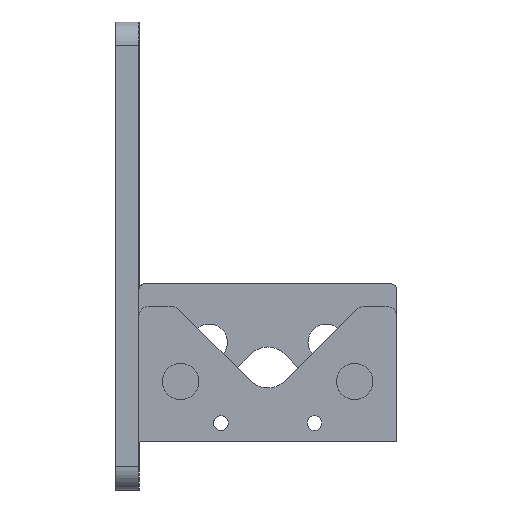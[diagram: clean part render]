
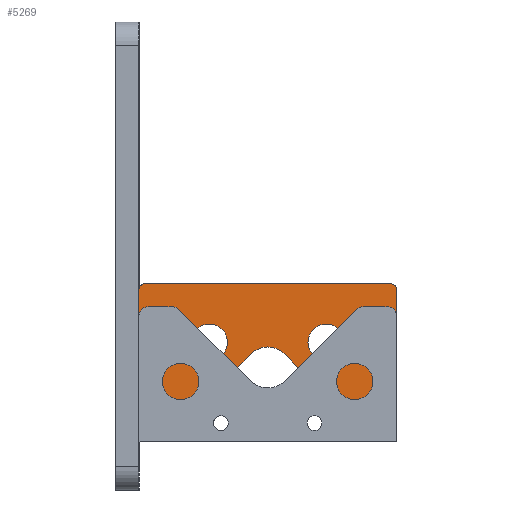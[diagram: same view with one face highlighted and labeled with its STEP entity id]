
A CAD part, left-side view. The second image highlights one B-rep face of the part: STEP entity #5269.
In plain terms, the highlighted planar face has unit normal (-1, 0, 0) as drawn and (0, 0, 1) by its records, which use the part's own axes.
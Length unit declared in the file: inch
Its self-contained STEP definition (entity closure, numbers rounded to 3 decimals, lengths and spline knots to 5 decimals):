
#51 = CARTESIAN_POINT ( 'NONE',  ( 0.7, 1.25, 0.75 ) ) ;
#52 = EDGE_CURVE ( 'NONE', #5646, #5666, #448, .T. ) ;
#72 = EDGE_CURVE ( 'NONE', #2369, #390, #3662, .T. ) ;
#77 = AXIS2_PLACEMENT_3D ( 'NONE', #4230, #1119, #3350 ) ;
#109 = EDGE_LOOP ( 'NONE', ( #3117, #561 ) ) ;
#138 = EDGE_CURVE ( 'NONE', #4276, #4186, #1235, .T. ) ;
#178 = ORIENTED_EDGE ( 'NONE', *, *, #994, .T. ) ;
#181 = CARTESIAN_POINT ( 'NONE',  ( 0.06, 1.25, 0.75 ) ) ;
#252 = CARTESIAN_POINT ( 'NONE',  ( 1.375, 0.925, 0.75 ) ) ;
#318 = DIRECTION ( 'NONE',  ( 0., 0., 1. ) ) ;
#326 = DIRECTION ( 'NONE',  ( -1., 0., 0. ) ) ;
#339 = EDGE_LOOP ( 'NONE', ( #4679, #1029, #1510, #1707, #3241, #5661, #3092, #5613, #2733, #1306, #4185, #178 ) ) ;
#354 = EDGE_CURVE ( 'NONE', #3002, #3090, #2640, .T. ) ;
#390 = VERTEX_POINT ( 'NONE', #5316 ) ;
#406 = EDGE_CURVE ( 'NONE', #4407, #450, #4513, .T. ) ;
#432 = CARTESIAN_POINT ( 'NONE',  ( 2.75, 0., 0.75 ) ) ;
#448 = CIRCLE ( 'NONE', #3853, 0.195 ) ;
#450 = VERTEX_POINT ( 'NONE', #2781 ) ;
#467 = CARTESIAN_POINT ( 'NONE',  ( 0., 1.25, 0.75 ) ) ;
#509 = AXIS2_PLACEMENT_3D ( 'NONE', #5535, #3900, #4328 ) ;
#520 = DIRECTION ( 'NONE',  ( 0., 0., -1. ) ) ;
#524 = VERTEX_POINT ( 'NONE', #2010 ) ;
#561 = ORIENTED_EDGE ( 'NONE', *, *, #3471, .T. ) ;
#584 = VECTOR ( 'NONE', #605, 39.37008 ) ;
#585 = CARTESIAN_POINT ( 'NONE',  ( 2.05, 1.25, 0.75 ) ) ;
#605 = DIRECTION ( 'NONE',  ( 0.705, -0.71, 0. ) ) ;
#653 = EDGE_LOOP ( 'NONE', ( #953, #2199 ) ) ;
#724 = PLANE ( 'NONE',  #3847 ) ;
#803 = DIRECTION ( 'NONE',  ( 1., 0., 0. ) ) ;
#835 = VECTOR ( 'NONE', #4596, 39.37008 ) ;
#877 = VERTEX_POINT ( 'NONE', #3307 ) ;
#953 = ORIENTED_EDGE ( 'NONE', *, *, #52, .T. ) ;
#977 = CARTESIAN_POINT ( 'NONE',  ( 2.75, 1.25, 0.75 ) ) ;
#994 = EDGE_CURVE ( 'NONE', #877, #2823, #3992, .T. ) ;
#1029 = ORIENTED_EDGE ( 'NONE', *, *, #5093, .T. ) ;
#1043 = DIRECTION ( 'NONE',  ( 0.705, 0.71, 0. ) ) ;
#1046 = EDGE_CURVE ( 'NONE', #3603, #877, #2137, .T. ) ;
#1067 = DIRECTION ( 'NONE',  ( -1., 0., 0. ) ) ;
#1080 = VERTEX_POINT ( 'NONE', #2982 ) ;
#1119 = DIRECTION ( 'NONE',  ( 0., 0., 1. ) ) ;
#1169 = CARTESIAN_POINT ( 'NONE',  ( 2.05, 1.25, 0.75 ) ) ;
#1214 = CARTESIAN_POINT ( 'NONE',  ( 0.75, 0.625, 0.75 ) ) ;
#1232 = VECTOR ( 'NONE', #3496, 39.37008 ) ;
#1235 = CIRCLE ( 'NONE', #1774, 0.195 ) ;
#1270 = DIRECTION ( 'NONE',  ( -1., 0., 0. ) ) ;
#1306 = ORIENTED_EDGE ( 'NONE', *, *, #5645, .T. ) ;
#1355 = AXIS2_PLACEMENT_3D ( 'NONE', #3282, #4538, #1886 ) ;
#1391 = CIRCLE ( 'NONE', #5430, 0.195 ) ;
#1440 = CARTESIAN_POINT ( 'NONE',  ( 0., 1.19, 0.75 ) ) ;
#1510 = ORIENTED_EDGE ( 'NONE', *, *, #72, .T. ) ;
#1520 = CARTESIAN_POINT ( 'NONE',  ( 0., 1.25, 0.75 ) ) ;
#1540 = EDGE_CURVE ( 'NONE', #1080, #3090, #2680, .T. ) ;
#1581 = DIRECTION ( 'NONE',  ( 1., 0., 0. ) ) ;
#1603 = VERTEX_POINT ( 'NONE', #181 ) ;
#1613 = CARTESIAN_POINT ( 'NONE',  ( 0., 0., 0.75 ) ) ;
#1707 = ORIENTED_EDGE ( 'NONE', *, *, #5179, .T. ) ;
#1774 = AXIS2_PLACEMENT_3D ( 'NONE', #4914, #520, #1067 ) ;
#1886 = DIRECTION ( 'NONE',  ( -1., 0., 0. ) ) ;
#2010 = CARTESIAN_POINT ( 'NONE',  ( 2.69, 0., 0.75 ) ) ;
#2137 = LINE ( 'NONE', #3448, #4911 ) ;
#2183 = AXIS2_PLACEMENT_3D ( 'NONE', #3382, #5205, #1270 ) ;
#2199 = ORIENTED_EDGE ( 'NONE', *, *, #5289, .T. ) ;
#2369 = VERTEX_POINT ( 'NONE', #5175 ) ;
#2464 = CIRCLE ( 'NONE', #2183, 0.06 ) ;
#2528 = EDGE_CURVE ( 'NONE', #450, #1080, #4237, .T. ) ;
#2575 = CARTESIAN_POINT ( 'NONE',  ( 0.945, 0.625, 0.75 ) ) ;
#2628 = EDGE_CURVE ( 'NONE', #4407, #1603, #3706, .T. ) ;
#2640 = LINE ( 'NONE', #467, #1232 ) ;
#2680 = LINE ( 'NONE', #585, #3738 ) ;
#2733 = ORIENTED_EDGE ( 'NONE', *, *, #2628, .T. ) ;
#2781 = CARTESIAN_POINT ( 'NONE',  ( 1.1976, 0.74885, 0.75 ) ) ;
#2822 = AXIS2_PLACEMENT_3D ( 'NONE', #5202, #3019, #803 ) ;
#2823 = VERTEX_POINT ( 'NONE', #3930 ) ;
#2968 = DIRECTION ( 'NONE',  ( 0., 0., -1. ) ) ;
#2982 = CARTESIAN_POINT ( 'NONE',  ( 1.5524, 0.74885, 0.75 ) ) ;
#3002 = VERTEX_POINT ( 'NONE', #4958 ) ;
#3019 = DIRECTION ( 'NONE',  ( 0., 0., -1. ) ) ;
#3073 = CARTESIAN_POINT ( 'NONE',  ( 0.555, 0.625, 0.75 ) ) ;
#3076 = CARTESIAN_POINT ( 'NONE',  ( 2.195, 0.625, 0.75 ) ) ;
#3090 = VERTEX_POINT ( 'NONE', #1169 ) ;
#3092 = ORIENTED_EDGE ( 'NONE', *, *, #2528, .F. ) ;
#3117 = ORIENTED_EDGE ( 'NONE', *, *, #138, .T. ) ;
#3204 = CARTESIAN_POINT ( 'NONE',  ( 2., 0.625, 0.75 ) ) ;
#3241 = ORIENTED_EDGE ( 'NONE', *, *, #354, .T. ) ;
#3282 = CARTESIAN_POINT ( 'NONE',  ( 2.69, 0.06, 0.75 ) ) ;
#3307 = CARTESIAN_POINT ( 'NONE',  ( 0., 0.06, 0.75 ) ) ;
#3350 = DIRECTION ( 'NONE',  ( -1., 0., 0. ) ) ;
#3355 = CARTESIAN_POINT ( 'NONE',  ( 1.805, 0.625, 0.75 ) ) ;
#3377 = DIRECTION ( 'NONE',  ( -1., 0., 0. ) ) ;
#3382 = CARTESIAN_POINT ( 'NONE',  ( 0.06, 1.19, 0.75 ) ) ;
#3397 = CIRCLE ( 'NONE', #77, 0.06 ) ;
#3406 = DIRECTION ( 'NONE',  ( 0., 0., -1. ) ) ;
#3448 = CARTESIAN_POINT ( 'NONE',  ( 0., 0., 0.75 ) ) ;
#3471 = EDGE_CURVE ( 'NONE', #4186, #4276, #1391, .T. ) ;
#3474 = DIRECTION ( 'NONE',  ( 0., -1., 0. ) ) ;
#3481 = CIRCLE ( 'NONE', #1355, 0.06 ) ;
#3496 = DIRECTION ( 'NONE',  ( -1., 0., 0. ) ) ;
#3593 = CARTESIAN_POINT ( 'NONE',  ( 0.7, 1.25, 0.75 ) ) ;
#3603 = VERTEX_POINT ( 'NONE', #1440 ) ;
#3661 = VECTOR ( 'NONE', #3935, 39.37008 ) ;
#3662 = LINE ( 'NONE', #977, #5436 ) ;
#3706 = LINE ( 'NONE', #1520, #835 ) ;
#3738 = VECTOR ( 'NONE', #1043, 39.37008 ) ;
#3822 = FACE_OUTER_BOUND ( 'NONE', #339, .T. ) ;
#3847 = AXIS2_PLACEMENT_3D ( 'NONE', #1613, #3406, #3377 ) ;
#3853 = AXIS2_PLACEMENT_3D ( 'NONE', #3204, #4545, #4121 ) ;
#3900 = DIRECTION ( 'NONE',  ( 0., 0., 1. ) ) ;
#3930 = CARTESIAN_POINT ( 'NONE',  ( 0.06, 0., 0.75 ) ) ;
#3935 = DIRECTION ( 'NONE',  ( 1., 0., 0. ) ) ;
#3992 = CIRCLE ( 'NONE', #509, 0.06 ) ;
#4017 = CIRCLE ( 'NONE', #2822, 0.195 ) ;
#4121 = DIRECTION ( 'NONE',  ( 1., 0., 0. ) ) ;
#4185 = ORIENTED_EDGE ( 'NONE', *, *, #1046, .T. ) ;
#4186 = VERTEX_POINT ( 'NONE', #2575 ) ;
#4230 = CARTESIAN_POINT ( 'NONE',  ( 2.69, 1.19, 0.75 ) ) ;
#4237 = CIRCLE ( 'NONE', #4503, 0.25 ) ;
#4259 = FACE_BOUND ( 'NONE', #653, .T. ) ;
#4268 = EDGE_CURVE ( 'NONE', #2823, #524, #4364, .T. ) ;
#4276 = VERTEX_POINT ( 'NONE', #3073 ) ;
#4328 = DIRECTION ( 'NONE',  ( -1., 0., 0. ) ) ;
#4364 = LINE ( 'NONE', #432, #3661 ) ;
#4407 = VERTEX_POINT ( 'NONE', #51 ) ;
#4503 = AXIS2_PLACEMENT_3D ( 'NONE', #252, #318, #1581 ) ;
#4513 = LINE ( 'NONE', #3593, #584 ) ;
#4538 = DIRECTION ( 'NONE',  ( 0., 0., 1. ) ) ;
#4545 = DIRECTION ( 'NONE',  ( 0., 0., -1. ) ) ;
#4596 = DIRECTION ( 'NONE',  ( -1., 0., 0. ) ) ;
#4655 = FACE_BOUND ( 'NONE', #109, .T. ) ;
#4679 = ORIENTED_EDGE ( 'NONE', *, *, #4268, .T. ) ;
#4911 = VECTOR ( 'NONE', #3474, 39.37008 ) ;
#4914 = CARTESIAN_POINT ( 'NONE',  ( 0.75, 0.625, 0.75 ) ) ;
#4958 = CARTESIAN_POINT ( 'NONE',  ( 2.69, 1.25, 0.75 ) ) ;
#5093 = EDGE_CURVE ( 'NONE', #524, #2369, #3481, .T. ) ;
#5175 = CARTESIAN_POINT ( 'NONE',  ( 2.75, 0.06, 0.75 ) ) ;
#5179 = EDGE_CURVE ( 'NONE', #390, #3002, #3397, .T. ) ;
#5202 = CARTESIAN_POINT ( 'NONE',  ( 2., 0.625, 0.75 ) ) ;
#5205 = DIRECTION ( 'NONE',  ( 0., 0., 1. ) ) ;
#5269 = ADVANCED_FACE ( 'NONE', ( #4259, #4655, #3822 ), #724, .F. ) ;
#5289 = EDGE_CURVE ( 'NONE', #5666, #5646, #4017, .T. ) ;
#5316 = CARTESIAN_POINT ( 'NONE',  ( 2.75, 1.19, 0.75 ) ) ;
#5430 = AXIS2_PLACEMENT_3D ( 'NONE', #1214, #2968, #326 ) ;
#5436 = VECTOR ( 'NONE', #5438, 39.37008 ) ;
#5438 = DIRECTION ( 'NONE',  ( 0., 1., 0. ) ) ;
#5535 = CARTESIAN_POINT ( 'NONE',  ( 0.06, 0.06, 0.75 ) ) ;
#5613 = ORIENTED_EDGE ( 'NONE', *, *, #406, .F. ) ;
#5645 = EDGE_CURVE ( 'NONE', #1603, #3603, #2464, .T. ) ;
#5646 = VERTEX_POINT ( 'NONE', #3355 ) ;
#5661 = ORIENTED_EDGE ( 'NONE', *, *, #1540, .F. ) ;
#5666 = VERTEX_POINT ( 'NONE', #3076 ) ;
